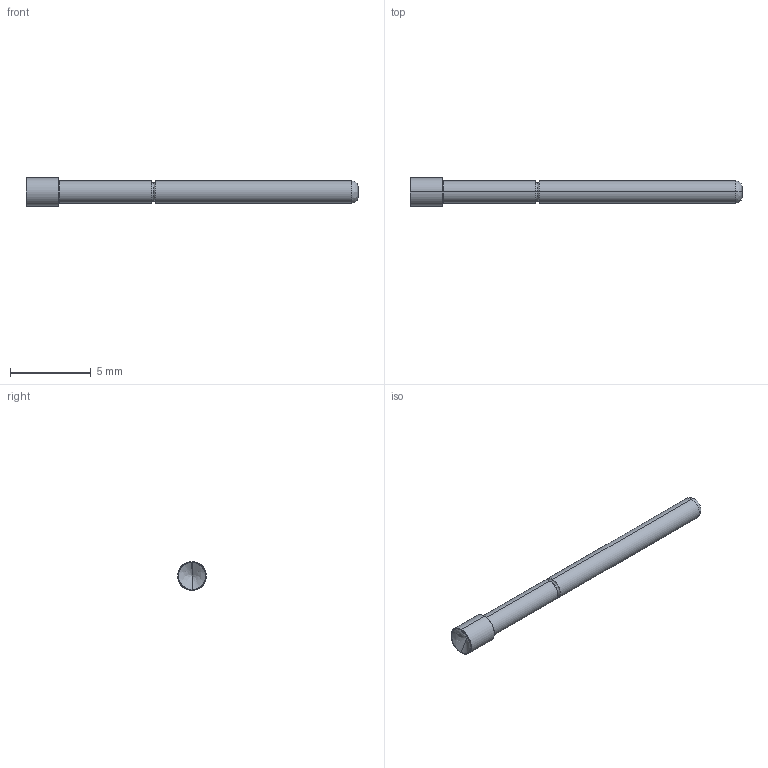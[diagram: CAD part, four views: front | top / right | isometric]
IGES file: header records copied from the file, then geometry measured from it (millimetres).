
Start section: SolidWorks IGES file using analytic representation for surfaces
Global section: file name: O:\PYLON\IGES FILES\P3158\P3158G-1V1S FULL.IGS; native system: SolidWorks 2015; preprocessor: SolidWorks 2015; author: kgolden; date: 171020.071712; units: inch
Bounding box: 20.6 x 1.78 x 1.78 mm (x, y, z)
Surface area: 102.7 mm2 (no closed solid volume)
Topology: 0 solids, 0 shells, 22 faces, 216 edges, 214 vertices
Faces by surface type: revolution 12, bspline 10
